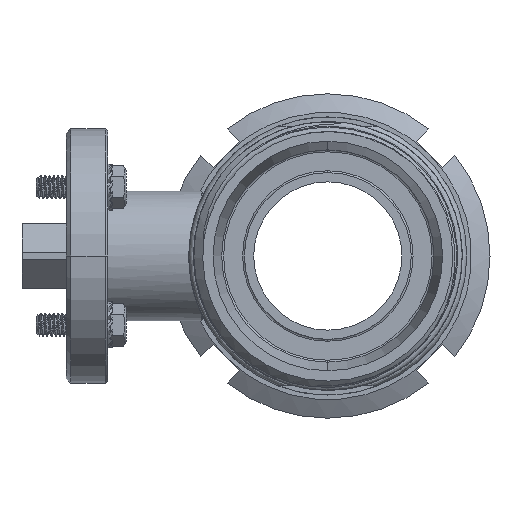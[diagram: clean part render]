
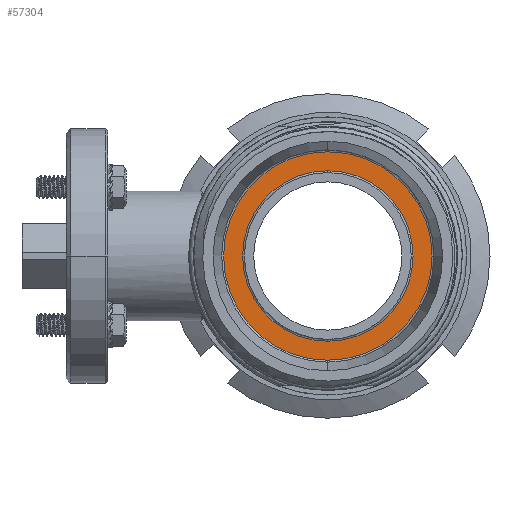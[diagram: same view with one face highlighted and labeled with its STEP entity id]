
A CAD part, left-side view. The second image highlights one B-rep face of the part: STEP entity #57304.
In plain terms, the highlighted planar face has unit normal (-1, 0, 0).
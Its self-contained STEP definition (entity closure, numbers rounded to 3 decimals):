
#5458=CARTESIAN_POINT('',(-45.5,0.,0.));
#5459=DIRECTION('',(1.,0.,0.));
#5460=DIRECTION('',(0.,0.,1.));
#5461=AXIS2_PLACEMENT_3D('',#5458,#5459,#5460);
#5473=CARTESIAN_POINT('',(-45.5,0.,0.));
#5474=DIRECTION('',(-1.,0.,0.));
#5475=DIRECTION('',(0.,0.,1.));
#5476=AXIS2_PLACEMENT_3D('',#5473,#5474,#5475);
#5478=CARTESIAN_POINT('',(-45.5,0.,0.));
#5479=DIRECTION('',(-1.,0.,0.));
#5480=DIRECTION('',(0.,0.,1.));
#5481=AXIS2_PLACEMENT_3D('',#5478,#5479,#5480);
#5498=CARTESIAN_POINT('',(-45.5,0.,0.));
#5499=DIRECTION('',(1.,0.,0.));
#5500=DIRECTION('',(0.,0.,1.));
#5501=AXIS2_PLACEMENT_3D('',#5498,#5499,#5500);
#49247=CARTESIAN_POINT('',(-45.5,0.,22.5));
#49248=CARTESIAN_POINT('',(-45.5,0.,-22.5));
#49249=VERTEX_POINT('',#49247);
#49250=VERTEX_POINT('',#49248);
#49259=CARTESIAN_POINT('',(-45.5,0.,18.4));
#49260=CARTESIAN_POINT('',(-45.5,0.,-18.4));
#49261=VERTEX_POINT('',#49259);
#49262=VERTEX_POINT('',#49260);
#57289=CARTESIAN_POINT('',(-45.5,0.,0.));
#57290=DIRECTION('',(1.,0.,0.));
#57291=DIRECTION('',(0.,0.,1.));
#57292=AXIS2_PLACEMENT_3D('',#57289,#57290,#57291);
#57293=PLANE('',#57292);
#57295=ORIENTED_EDGE('',*,*,#57294,.F.);
#57297=ORIENTED_EDGE('',*,*,#57296,.T.);
#57298=EDGE_LOOP('',(#57295,#57297));
#57299=FACE_OUTER_BOUND('',#57298,.F.);
#57300=ORIENTED_EDGE('',*,*,#57255,.F.);
#57301=ORIENTED_EDGE('',*,*,#57276,.T.);
#57302=EDGE_LOOP('',(#57300,#57301));
#57303=FACE_BOUND('',#57302,.F.);
#57304=ADVANCED_FACE('',(#57299,#57303),#57293,.F.);
#5462=CIRCLE('',#5461,18.4);
#5477=CIRCLE('',#5476,18.4);
#5482=CIRCLE('',#5481,22.5);
#5502=CIRCLE('',#5501,22.5);
#57255=EDGE_CURVE('',#49261,#49262,#5462,.T.);
#57276=EDGE_CURVE('',#49261,#49262,#5477,.T.);
#57294=EDGE_CURVE('',#49249,#49250,#5482,.T.);
#57296=EDGE_CURVE('',#49249,#49250,#5502,.T.);
